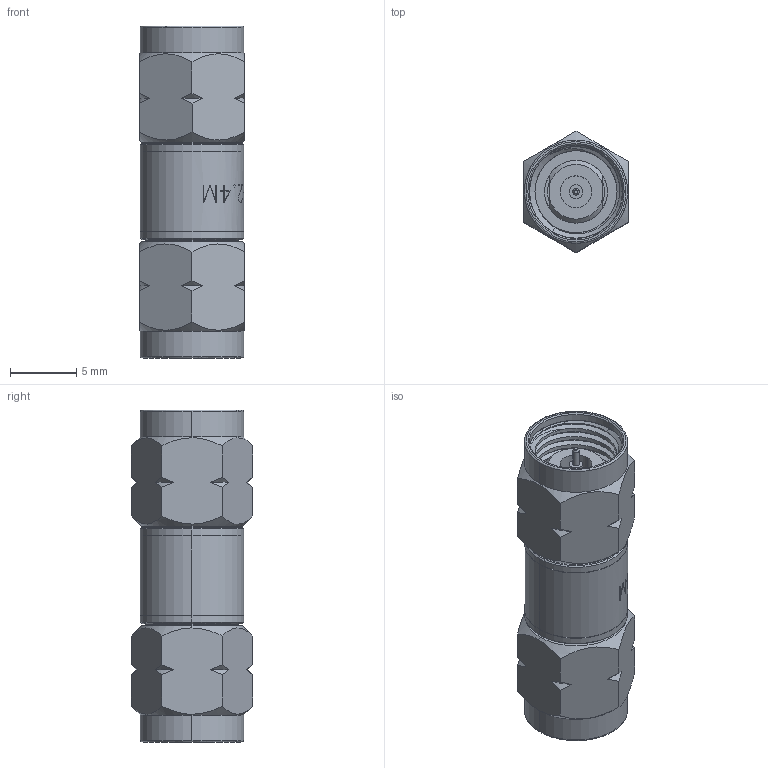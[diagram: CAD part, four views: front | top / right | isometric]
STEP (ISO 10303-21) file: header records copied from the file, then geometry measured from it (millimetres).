
FILE_DESCRIPTION (( 'STEP AP203' ), '1' );
FILE_NAME ('8027000K001-803-Cst.STEP', '2020-10-29T20:41:11', ( '' ), ( '' ), 'SwSTEP 2.0', 'SolidWorks 2019', '' );
FILE_SCHEMA (( 'CONFIG_CONTROL_DESIGN' ));
Length unit declared in the file: inch
Products named in the file (1): 8027000K001-803-Cst
Bounding box: 7.92 x 9.15 x 25.06 mm (x, y, z)
Volume: 948.1 mm3; surface area: 1614.8 mm2
Topology: 1 solids, 1 shells, 370 faces, 970 edges, 637 vertices
Faces by surface type: plane 131, cylinder 106, bspline 70, cone 63
Entity records: 14648 total; most frequent: CARTESIAN_POINT 5934, ORIENTED_EDGE 1940, DIRECTION 1611, EDGE_CURVE 970, VERTEX_POINT 637, AXIS2_PLACEMENT_3D 613, EDGE_LOOP 413, LINE 385
